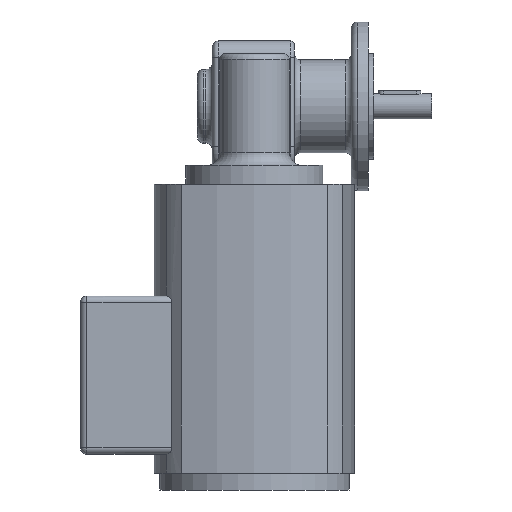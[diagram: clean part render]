
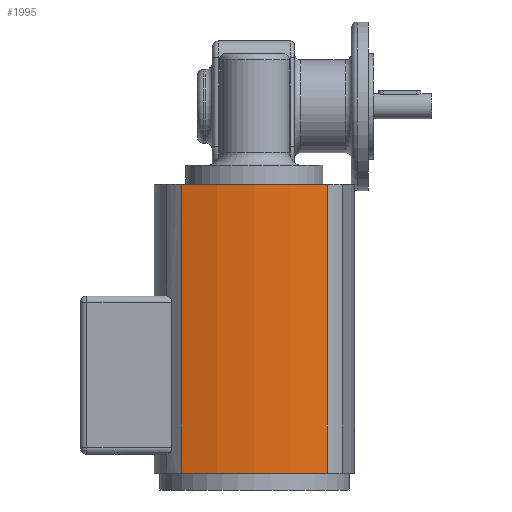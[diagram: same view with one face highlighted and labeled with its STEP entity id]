
A CAD part, front view. The second image highlights one B-rep face of the part: STEP entity #1995.
In plain terms, the highlighted cylindrical face has radius 107.045 mm (diameter 214.089 mm), a partial arc.
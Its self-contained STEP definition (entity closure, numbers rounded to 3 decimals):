
#75 = CARTESIAN_POINT ( 'NONE',  ( 0., -59.545, -137. ) ) ;
#76 = DIRECTION ( 'NONE',  ( 0., 0., 1. ) ) ;
#77 = DIRECTION ( 'NONE',  ( 1., 0., 0. ) ) ;
#95 = LINE ( 'NONE', #96, #660 ) ;
#96 = CARTESIAN_POINT ( 'NONE',  ( -34.662, 41.733, -137. ) ) ;
#104 = DIRECTION ( 'NONE',  ( 0., 0., 1. ) ) ;
#107 = CARTESIAN_POINT ( 'NONE',  ( 0., -59.545, 0. ) ) ;
#108 = DIRECTION ( 'NONE',  ( 0., 0., 1. ) ) ;
#109 = DIRECTION ( 'NONE',  ( 1., 0., 0. ) ) ;
#660 = VECTOR ( 'NONE', #104, 1000. ) ;
#662 = CIRCLE ( 'NONE', #664, 107.045 ) ;
#664 = AXIS2_PLACEMENT_3D ( 'NONE', #107, #108, #109 ) ;
#1851 = VERTEX_POINT ( 'NONE', #2726 ) ;
#1860 = VERTEX_POINT ( 'NONE', #2735 ) ;
#1884 = VERTEX_POINT ( 'NONE', #2759 ) ;
#1983 = EDGE_CURVE ( 'NONE', #1884, #2022, #2787, .T. ) ;
#1995 = ADVANCED_FACE ( 'NONE', ( #2851 ), #2853, .T. ) ;
#2022 = VERTEX_POINT ( 'NONE', #2927 ) ;
#2113 = VECTOR ( 'NONE', #2797, 1000. ) ;
#2273 = EDGE_LOOP ( 'NONE', ( #2348, #2352, #2424, #2312 ) ) ;
#2312 = ORIENTED_EDGE ( 'NONE', *, *, #3684, .T. ) ;
#2348 = ORIENTED_EDGE ( 'NONE', *, *, #3685, .F. ) ;
#2352 = ORIENTED_EDGE ( 'NONE', *, *, #1983, .F. ) ;
#2424 = ORIENTED_EDGE ( 'NONE', *, *, #3675, .T. ) ;
#2524 = AXIS2_PLACEMENT_3D ( 'NONE', #2852, #2847, #2854 ) ;
#2726 = CARTESIAN_POINT ( 'NONE',  ( -34.662, 41.733, 0. ) ) ;
#2735 = CARTESIAN_POINT ( 'NONE',  ( -34.662, 41.733, -137. ) ) ;
#2759 = CARTESIAN_POINT ( 'NONE',  ( 34.662, 41.733, -137. ) ) ;
#2787 = LINE ( 'NONE', #2788, #2113 ) ;
#2788 = CARTESIAN_POINT ( 'NONE',  ( 34.662, 41.733, -137. ) ) ;
#2797 = DIRECTION ( 'NONE',  ( 0., 0., 1. ) ) ;
#2847 = DIRECTION ( 'NONE',  ( 0., 0., 1. ) ) ;
#2851 = FACE_OUTER_BOUND ( 'NONE', #2273, .T. ) ;
#2852 = CARTESIAN_POINT ( 'NONE',  ( 0., -59.545, -137. ) ) ;
#2853 = CYLINDRICAL_SURFACE ( 'NONE', #2524, 107.045 ) ;
#2854 = DIRECTION ( 'NONE',  ( 1., 0., 0. ) ) ;
#2927 = CARTESIAN_POINT ( 'NONE',  ( 34.662, 41.733, 0. ) ) ;
#3533 = CIRCLE ( 'NONE', #3566, 107.045 ) ;
#3566 = AXIS2_PLACEMENT_3D ( 'NONE', #75, #76, #77 ) ;
#3675 = EDGE_CURVE ( 'NONE', #1884, #1860, #3533, .T. ) ;
#3684 = EDGE_CURVE ( 'NONE', #1860, #1851, #95, .T. ) ;
#3685 = EDGE_CURVE ( 'NONE', #2022, #1851, #662, .T. ) ;
